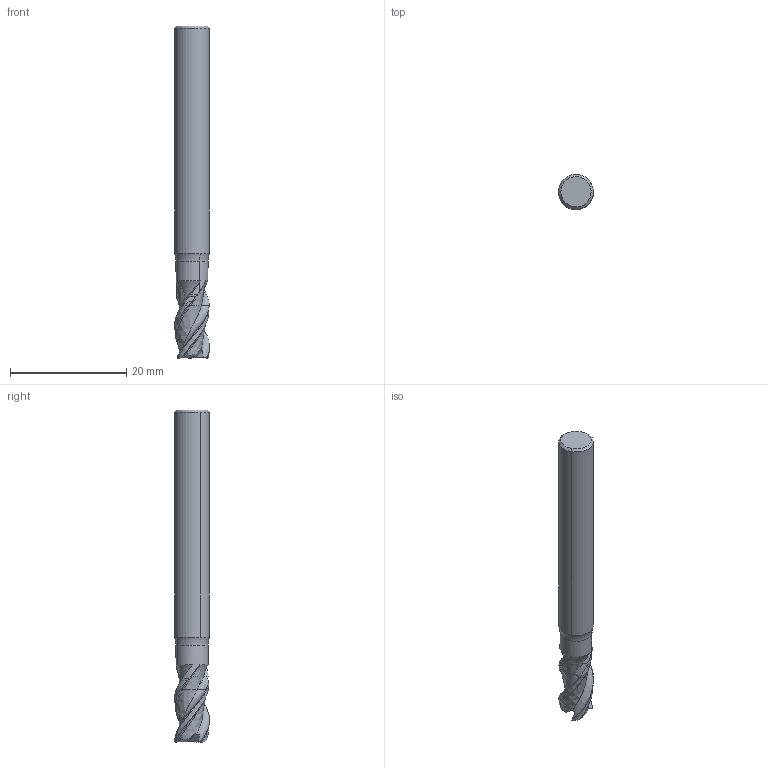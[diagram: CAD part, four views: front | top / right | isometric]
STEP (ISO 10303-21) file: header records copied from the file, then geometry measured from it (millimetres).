
FILE_DESCRIPTION(('CATIA V5 STEP','CAx-IF Rec.Pracs.--- Model Styling and Organization---1.2---2011-12-15'),'2;1');
FILE_NAME('I:\isr\design\admin8\users\weaam_s\5622780D.stp','2017-05-30T04:45:30+00:00',('none'),('none'),'CATIA Version 5 Release 21 SP 5 (IN-10)','CATIA V5 STEP AP214','none');
FILE_SCHEMA(('AUTOMOTIVE_DESIGN { 1 0 10303 214 1 1 1 1 }'));
Length unit declared in the file: millimetre
Products named in the file (1): ECA-H3 06-09/18C06CF-R02
Bounding box: 6 x 6 x 57 mm (x, y, z)
Volume: 1442.3 mm3; surface area: 1136 mm2
Topology: 2 solids, 2 shells, 88 faces, 248 edges, 164 vertices
Faces by surface type: bspline 48, plane 15, torus 12, cone 8, cylinder 5
Entity records: 4181 total; most frequent: CARTESIAN_POINT 2523, ORIENTED_EDGE 484, EDGE_CURVE 242, VERTEX_POINT 158, B_SPLINE_CURVE_WITH_KNOTS 157, DIRECTION 111, ADVANCED_FACE 88, EDGE_LOOP 88
